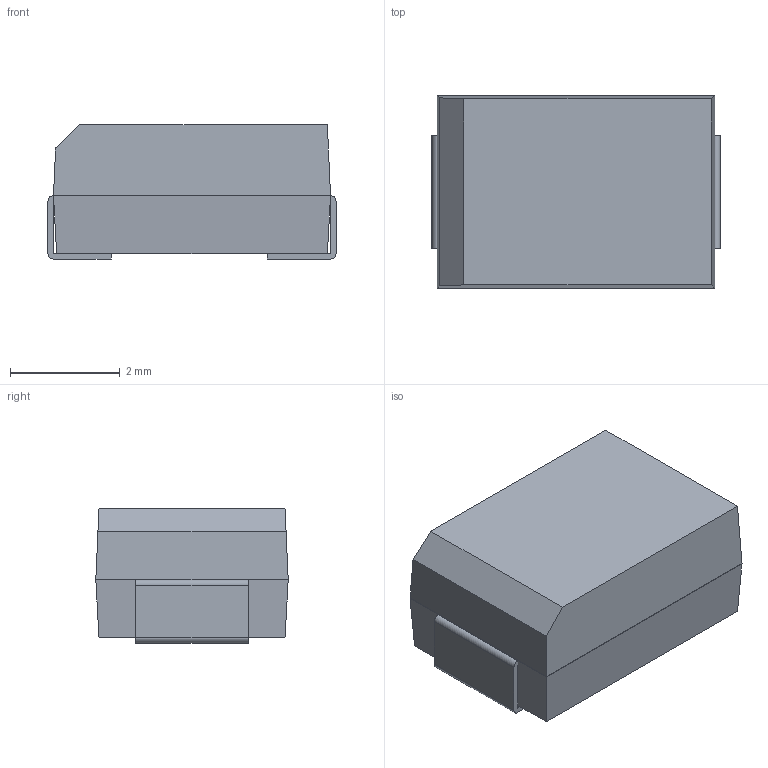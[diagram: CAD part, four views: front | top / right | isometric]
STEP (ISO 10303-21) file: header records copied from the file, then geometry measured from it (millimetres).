
FILE_DESCRIPTION(('FreeCAD Model'),'2;1');
FILE_NAME('/var/www/3D/0T/13412832.1.1.stp','2023-12-28T09:43:00',( 'Author'),(''),'Open CASCADE STEP processor 6.9','FreeCAD','Unknown' );
FILE_SCHEMA(('AUTOMOTIVE_DESIGN { 1 0 10303 214 1 1 1 1 }'));
Length unit declared in the file: millimetre
Products named in the file (4): ASSEMBLY; Body; FilletPin1; FilletPin2
Assembly tree (3 placements, depth 2):
  ASSEMBLY
    Body
    FilletPin1
    FilletPin2
Bounding box: 5.24 x 3.5 x 2.44 mm (x, y, z)
Volume: 41.1 mm3; surface area: 100.2 mm2
Topology: 3 solids, 3 shells, 39 faces, 91 edges, 58 vertices
Faces by surface type: plane 35, cylinder 4
Entity records: 2372 total; most frequent: CARTESIAN_POINT 402, DIRECTION 359, LINE 253, VECTOR 253, ORIENTED_EDGE 182, PCURVE 182, DEFINITIONAL_REPRESENTATION 182, EDGE_CURVE 91
